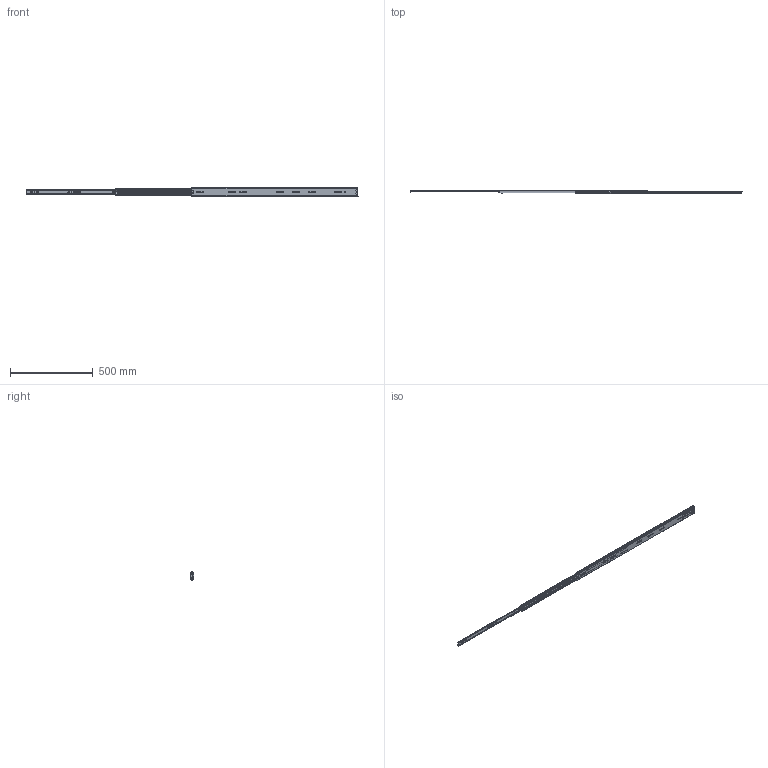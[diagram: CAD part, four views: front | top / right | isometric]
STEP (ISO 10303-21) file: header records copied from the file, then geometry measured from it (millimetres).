
FILE_DESCRIPTION((''),'2;1');
FILE_NAME('1053-HD-1000_ASM','2023-11-18T',('jishu015'),(''),'PRO/ENGINEER BY PARAMETRIC TECHNOLOGY CORPORATION, 2010280','PRO/ENGINEER BY PARAMETRIC TECHNOLOGY CORPORATION, 2010280','');
FILE_SCHEMA(('CONFIG_CONTROL_DESIGN'));
Products named in the file (25): 1053-02-18WAIKE11___; MANIFOLD_SOLID_BREP_512___; MANIFOLD_SOLID_BREP_5212___; MANIFOLD_SOLID_BREP_5312___; ADMI29141B9BC7PD_ASM11__ASM; ASM0001______________ASM; 53_ASM______________ASM; 1053-02-18XTPJG-DAZHUJIA2_____; 1053-02-18XTPJG-5-6GANZHU13; ZHONGGUIJIAO-11_______________; 1053-02-18XTPJG-DAZHUJIA12______ASM; 1053-02-18WAIKE11____ASM; 1053-02-18ZHONGGUI11______; 53ZHIDIJIAO12___; 3X6-MAODING_____________; 1053-02-18ZHONGGUI11_______ASM; 1053XIAOZHUJIA-14GE11_______; 53-5-6GANZHU12___; 1053XIAOZHUJIA-14GE11________ASM; 1053-02-18NEIGUI12____; 53BACHA12___; XIAOMAODING_____________; 3X4MAODING_____________; 1053-02-18NEIGUI12_____ASM; 1053-HD-1000_ASM
Assembly tree (155 placements, depth 6):
  1053-HD-1000_ASM
    1053-02-18WAIKE11____ASM
      1053-02-18WAIKE11___
      53_ASM______________ASM
        ASM0001______________ASM
          ADMI29141B9BC7PD_ASM11__ASM
            MANIFOLD_SOLID_BREP_512___
            MANIFOLD_SOLID_BREP_5212___
            MANIFOLD_SOLID_BREP_5312___
      1053-02-18XTPJG-DAZHUJIA12______ASM
        1053-02-18XTPJG-DAZHUJIA2_____
        1053-02-18XTPJG-5-6GANZHU13  x64
        ZHONGGUIJIAO-11_______________  x2
    1053-02-18ZHONGGUI11_______ASM
      1053-02-18ZHONGGUI11______
      53ZHIDIJIAO12___
      3X6-MAODING_____________
    1053XIAOZHUJIA-14GE11________ASM
      1053XIAOZHUJIA-14GE11_______
      53-5-6GANZHU12___  x68
    1053-02-18NEIGUI12_____ASM
      1053-02-18NEIGUI12____
      53BACHA12___
      XIAOMAODING_____________
      3X4MAODING_____________
Bounding box: 2002.1 x 19.75 x 53 mm (x, y, z)
Volume: 380781.2 mm3; surface area: 470673.3 mm2
Topology: 147 solids, 147 shells, 4994 faces, 13957 edges, 8704 vertices
Faces by surface type: plane 2175, cylinder 2042, sphere 294, bspline 266, cone 155, torus 60, extrusion 2
Entity records: 173856 total; most frequent: CARTESIAN_POINT 52637, ORIENTED_EDGE 25852, DIRECTION 24603, EDGE_CURVE 12926, AXIS2_PLACEMENT_3D 8405, VERTEX_POINT 8318, VECTOR 7793, LINE 7791
